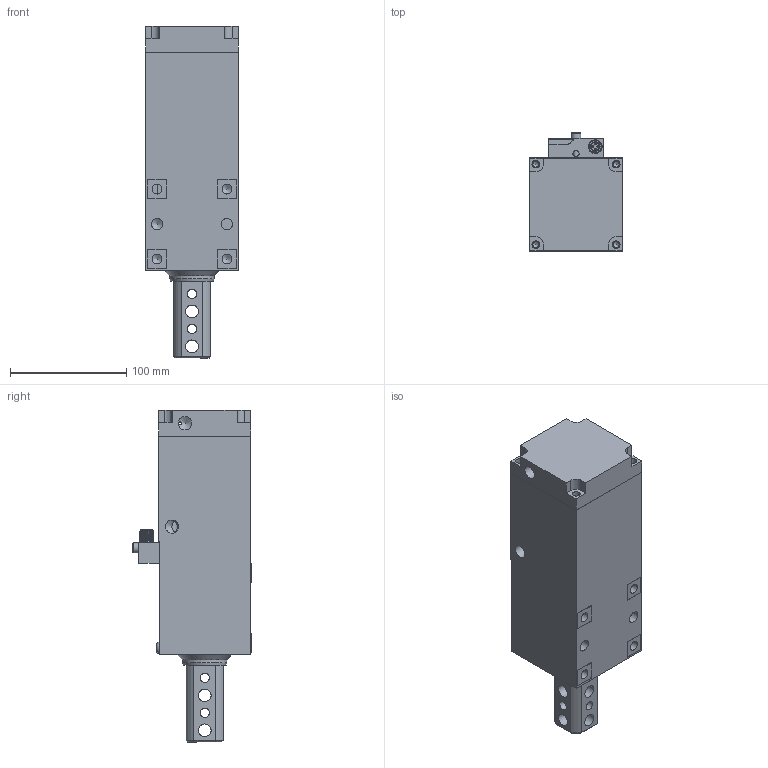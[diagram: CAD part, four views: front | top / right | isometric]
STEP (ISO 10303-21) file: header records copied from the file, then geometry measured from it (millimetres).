
FILE_DESCRIPTION(/* description */ (''),/* implementation_level */ '2;1');
FILE_NAME(/* name */ 'M:\cad\PRODUCT\LSA\LSA - 95\STEP\LSA-95\25mm Stroke\LSA-95 25mm Stroke - Retract.stp',/* time_stamp */ '2018-04-20T08:51:53-04:00',/* author */ ('Tyler'),/* organization */ (''),/* preprocessor_version */ 'ST-DEVELOPER v17',/* originating_system */ 'Autodesk Inventor 2018',/* authorisation */ '');
FILE_SCHEMA (('AUTOMOTIVE_DESIGN { 1 0 10303 214 3 1 1 }'));
Length unit declared in the file: inch
Products named in the file (2): LSA-95  25_50 Stroke - Stripped for STEP; LSA-95  25_50 Stroke - Stripped for STEP_Retract
Assembly tree (1 placements, depth 2):
  LSA-95  25_50 Stroke - Stripped for STEP
    LSA-95  25_50 Stroke - Stripped for STEP_Retract
Bounding box: 80.01 x 101.81 x 285.06 mm (x, y, z)
Volume: 1007460.8 mm3; surface area: 189396.2 mm2
Topology: 2 solids, 2 shells, 410 faces, 1205 edges, 815 vertices
Faces by surface type: plane 192, cylinder 156, cone 54, torus 8
Full cylindrical faces by diameter (mm): 1 x8, 1.191 x1, 2 x2, 2.383 x2, 3.175 x2, 3.264 x6, 3.302 x1, 4.928 x4, 5 x1, 5.3 x4, 6.35 x3, 6.5 x4, 8.019 x8, 8.3 x1, 8.382 x4, 8.5 x1, 9.5 x1, 10.02 x2, 10.16 x1, 10.312 x1, 10.5 x1, 10.998 x8, 11.455 x5, 11.76 x1, 11.811 x1, 12 x1, 15.875 x2, 17.78 x1, 22.86 x1, 38.087 x1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
Entity records: 14961 total; most frequent: CARTESIAN_POINT 3022, DIRECTION 2482, ORIENTED_EDGE 2376, EDGE_CURVE 1188, AXIS2_PLACEMENT_3D 943, VERTEX_POINT 815, LINE 596, VECTOR 596
